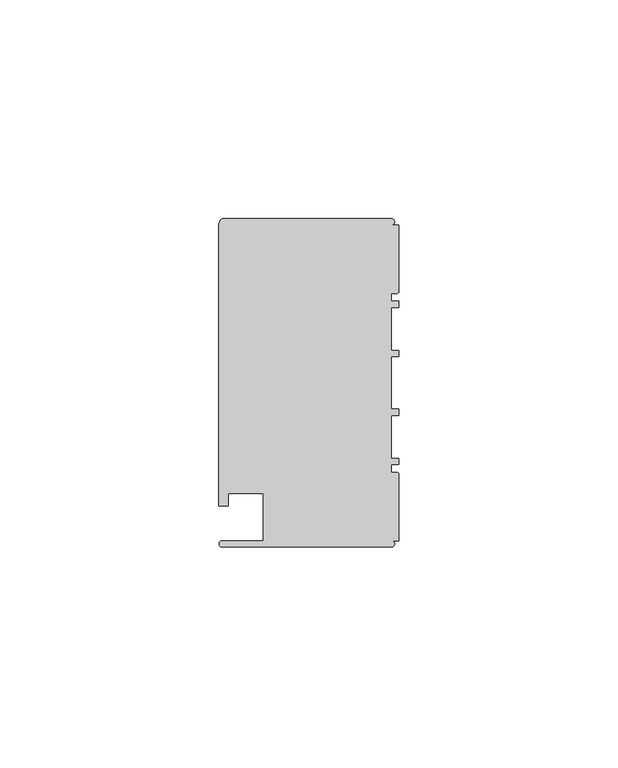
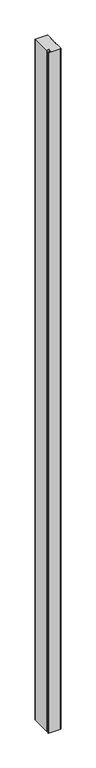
"""IFC4 building model written with IfcOpenShell, lengths in millimetres: member geometry, Прямоугольный импост : 1-AMG-1-Профиль 40Х75 Верх П."""

from ifc_helpers import new_model, si_unit, point, frame, frame_2d, origin, place, context, project, spatial, polyline, circle_curve, trimmed, segment, composite_curve, outline, extrude, source, transform, mapped, element, save


def member_1a34cda2(model_context):
    return source(origin(), model_context, "Body", "SweptSolid", [
        extrude(outline(composite_curve([segment(polyline([(-1.7, -37.5), (-40.4, -37.5)]), True, "CONTINUOUS"), segment(trimmed(circle_curve(frame_2d((-40.4, -36.8)), 0.7), [point((-40.4, -37.5))], [point((-40.4, -36.1))], False, "CARTESIAN"), True, "CONTINUOUS"), segment(polyline([(-40.4, -36.1), (-31.0, -36.1), (-31.0, -25.25), (-39.0, -25.25), (-39.0, -28.1), (-41.1, -28.1), (-41.1, 36.1)]), True, "CONTINUOUS"), segment(trimmed(circle_curve(frame_2d((-39.7541527, 36.3020763)), 1.3609334), [point((-41.1, 36.1))], [point((-40.4, 37.5))], False, "CARTESIAN"), True, "CONTINUOUS"), segment(polyline([(-40.4, 37.5), (-1.7, 37.5)]), True, "CONTINUOUS"), segment(trimmed(circle_curve(frame_2d((-1.7, 36.8)), 0.7), [point((-1.7, 37.5))], [point((-1.7, 36.1))], False, "CARTESIAN"), True, "CONTINUOUS"), segment(polyline([(-1.7, 36.1), (0.0, 36.1), (0.0, 20.95)]), True, "CONTINUOUS"), segment(trimmed(circle_curve(frame_2d((-0.5, 20.95)), 0.5), [point((0.0, 20.95))], [point((-0.5, 20.45))], False, "CARTESIAN"), True, "CONTINUOUS"), segment(polyline([(-0.5, 20.45), (-1.8, 20.45), (-1.8, 18.65), (0.0, 18.65), (0.0, 17.25), (-1.8, 17.25), (-1.8, 7.4), (0.0, 7.4), (0.0, 6.0), (-1.8, 6.0), (-1.8, -6.0), (0.0, -6.0), (0.0, -7.4), (-1.8, -7.4), (-1.8, -17.25), (0.0, -17.25), (0.0, -18.65), (-1.8, -18.65), (-1.8, -20.45), (-0.5, -20.45)]), True, "CONTINUOUS"), segment(trimmed(circle_curve(frame_2d((-0.5, -20.95)), 0.5), [point((-0.5, -20.45))], [point((0.0, -20.95))], False, "CARTESIAN"), True, "CONTINUOUS"), segment(polyline([(0.0, -20.95), (0.0, -36.1), (-1.7, -36.1)]), True, "CONTINUOUS"), segment(trimmed(circle_curve(frame_2d((-1.7, -36.8)), 0.7), [point((-1.7, -36.1))], [point((-1.7, -37.5))], False, "CARTESIAN"), True, "CONTINUOUS")], self_intersect=False)), frame((0.0, 0.0, -2298.9), z_axis=(0.0, 0.0, 1.0), x_axis=(1.0, 0.0, 0.0)), (0.0, 0.0, 1.0), 2298.9),
    ])


if __name__ == "__main__":
    model = new_model("IFC4")
    model_context = context("Model", 3, world=origin())
    ifc_project = project(units=[si_unit("LENGTHUNIT", "METRE", prefix="MILLI")], contexts=[model_context])
    site = spatial("IfcSite", under=ifc_project)
    building = spatial("IfcBuilding", under=site)
    placement = place(None, origin())
    member_shape = member_1a34cda2(model_context)
    element("IfcMember", 1, ObjectType="Прямоугольный импост : 1-AMG-1-Профиль 40Х75 Верх П", at=placement, inside=building, context=model_context, shape_type="MappedRepresentation", body=[
        mapped(member_shape, transform((0.0, 0.0, 0.0), x_axis=(1.0, 0.0, 0.0), y_axis=(0.0, 1.0, 0.0), z_axis=(0.0, 0.0, 1.0))),
    ])
    save(model, "model.ifc")
